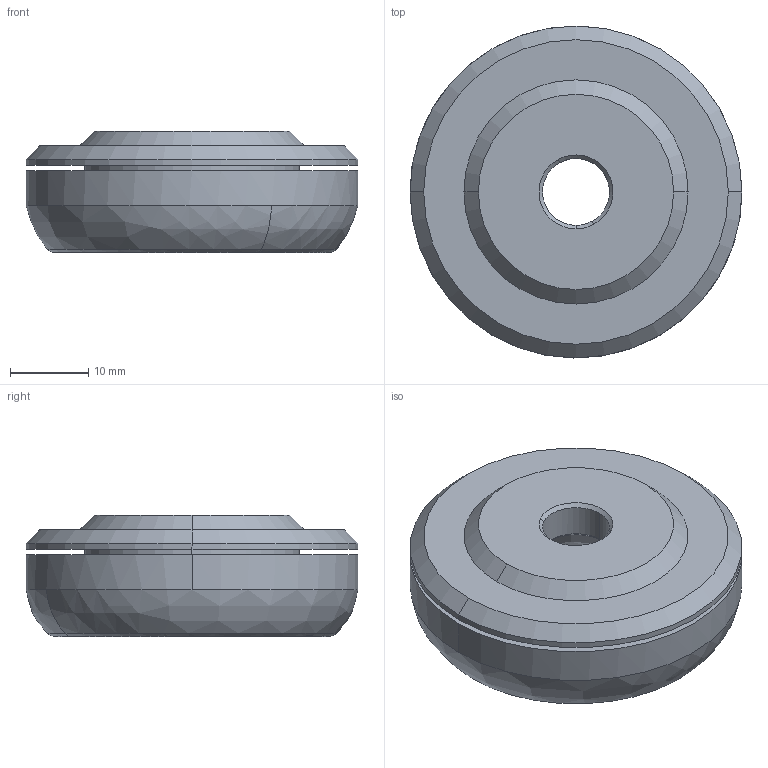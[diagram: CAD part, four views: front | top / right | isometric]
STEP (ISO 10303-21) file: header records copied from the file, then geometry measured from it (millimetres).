
FILE_DESCRIPTION (( 'STEP AP214' ), '1' );
FILE_NAME ('10FF.042.001.15.STEP', '2026-03-25T18:50:15', ( '' ), ( '' ), 'SwSTEP 2.0', 'SolidWorks 2025', '' );
FILE_SCHEMA (( 'AUTOMOTIVE_DESIGN' ));
Length unit declared in the file: millimetre
Products named in the file (1): 10FF.042.001.15
Bounding box: 42.5 x 42.5 x 15.5 mm (x, y, z)
Volume: 12544 mm3; surface area: 6621 mm2
Topology: 1 solids, 2 shells, 43 faces, 101 edges, 65 vertices
Faces by surface type: cylinder 14, cone 14, bspline 8, plane 7
Entity records: 1390 total; most frequent: CARTESIAN_POINT 345, DIRECTION 239, ORIENTED_EDGE 202, AXIS2_PLACEMENT_3D 107, EDGE_CURVE 101, CIRCLE 71, VERTEX_POINT 65, EDGE_LOOP 50
